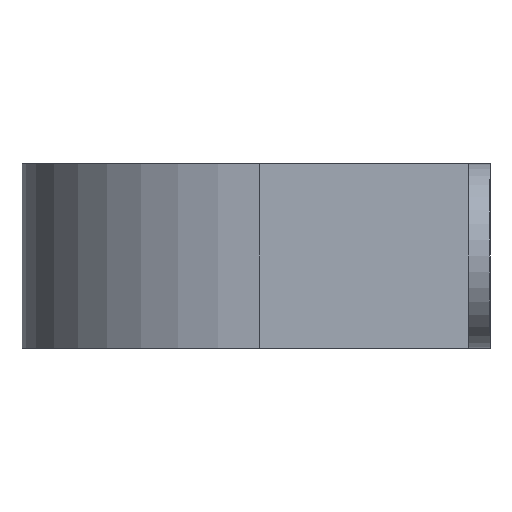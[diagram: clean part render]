
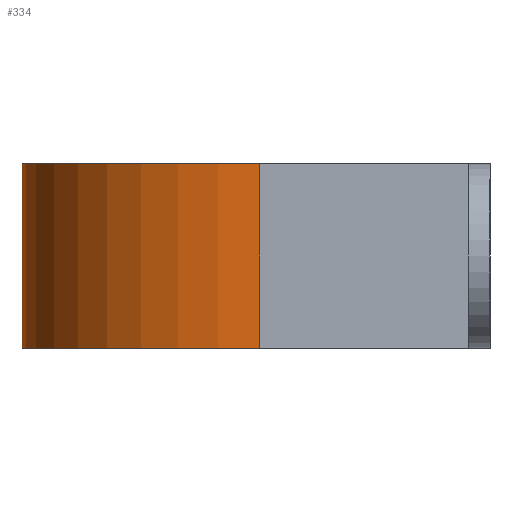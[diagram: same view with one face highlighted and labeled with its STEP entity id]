
A CAD part, left-side view. The second image highlights one B-rep face of the part: STEP entity #334.
In plain terms, the highlighted cylindrical face has radius 25.8 mm (diameter 51.6 mm), a partial arc.
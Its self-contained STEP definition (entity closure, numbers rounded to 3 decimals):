
#29 = AXIS2_PLACEMENT_3D ( 'NONE', #797, #791, #434 ) ;
#71 = EDGE_CURVE ( 'NONE', #305, #688, #722, .T. ) ;
#181 = ORIENTED_EDGE ( 'NONE', *, *, #270, .F. ) ;
#183 = EDGE_CURVE ( 'NONE', #589, #472, #485, .T. ) ;
#197 = DIRECTION ( 'NONE',  ( 0., 0., -1. ) ) ;
#239 = CIRCLE ( 'NONE', #524, 25.8 ) ;
#247 = AXIS2_PLACEMENT_3D ( 'NONE', #483, #197, #838 ) ;
#270 = EDGE_CURVE ( 'NONE', #305, #589, #239, .T. ) ;
#275 = CARTESIAN_POINT ( 'NONE',  ( 0., 25., 10. ) ) ;
#279 = FACE_OUTER_BOUND ( 'NONE', #628, .T. ) ;
#286 = DIRECTION ( 'NONE',  ( 0., 0., -1. ) ) ;
#305 = VERTEX_POINT ( 'NONE', #713 ) ;
#334 = ADVANCED_FACE ( 'NONE', ( #279 ), #406, .T. ) ;
#337 = VECTOR ( 'NONE', #286, 1000. ) ;
#347 = ORIENTED_EDGE ( 'NONE', *, *, #183, .F. ) ;
#406 = CYLINDRICAL_SURFACE ( 'NONE', #247, 25.8 ) ;
#419 = ORIENTED_EDGE ( 'NONE', *, *, #474, .T. ) ;
#434 = DIRECTION ( 'NONE',  ( 1., 0., 0. ) ) ;
#469 = CIRCLE ( 'NONE', #29, 25.8 ) ;
#471 = CARTESIAN_POINT ( 'NONE',  ( 25.8, 25., -10. ) ) ;
#472 = VERTEX_POINT ( 'NONE', #648 ) ;
#474 = EDGE_CURVE ( 'NONE', #688, #472, #469, .T. ) ;
#483 = CARTESIAN_POINT ( 'NONE',  ( 0., 25., 10. ) ) ;
#485 = LINE ( 'NONE', #550, #337 ) ;
#524 = AXIS2_PLACEMENT_3D ( 'NONE', #275, #774, #708 ) ;
#550 = CARTESIAN_POINT ( 'NONE',  ( -25.8, 25., 10. ) ) ;
#567 = CARTESIAN_POINT ( 'NONE',  ( -25.8, 25., 10. ) ) ;
#580 = ORIENTED_EDGE ( 'NONE', *, *, #71, .T. ) ;
#589 = VERTEX_POINT ( 'NONE', #567 ) ;
#628 = EDGE_LOOP ( 'NONE', ( #419, #347, #181, #580 ) ) ;
#648 = CARTESIAN_POINT ( 'NONE',  ( -25.8, 25., -10. ) ) ;
#656 = DIRECTION ( 'NONE',  ( 0., 0., -1. ) ) ;
#688 = VERTEX_POINT ( 'NONE', #471 ) ;
#708 = DIRECTION ( 'NONE',  ( -1., 0., 0. ) ) ;
#713 = CARTESIAN_POINT ( 'NONE',  ( 25.8, 25., 10. ) ) ;
#722 = LINE ( 'NONE', #731, #744 ) ;
#731 = CARTESIAN_POINT ( 'NONE',  ( 25.8, 25., 10. ) ) ;
#744 = VECTOR ( 'NONE', #656, 1000. ) ;
#774 = DIRECTION ( 'NONE',  ( 0., 0., 1. ) ) ;
#791 = DIRECTION ( 'NONE',  ( 0., 0., 1. ) ) ;
#797 = CARTESIAN_POINT ( 'NONE',  ( 0., 25., -10. ) ) ;
#838 = DIRECTION ( 'NONE',  ( -1., 0., 0. ) ) ;
